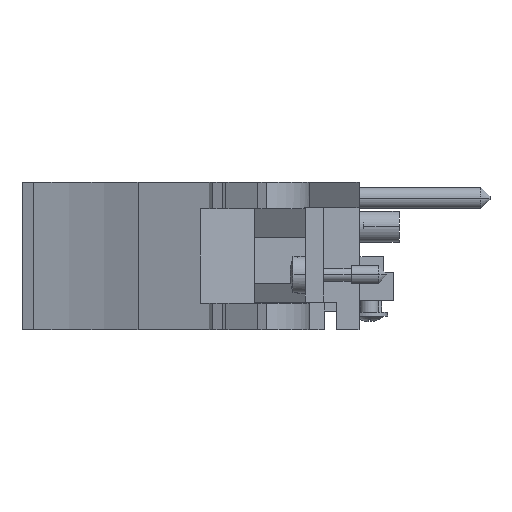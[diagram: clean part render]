
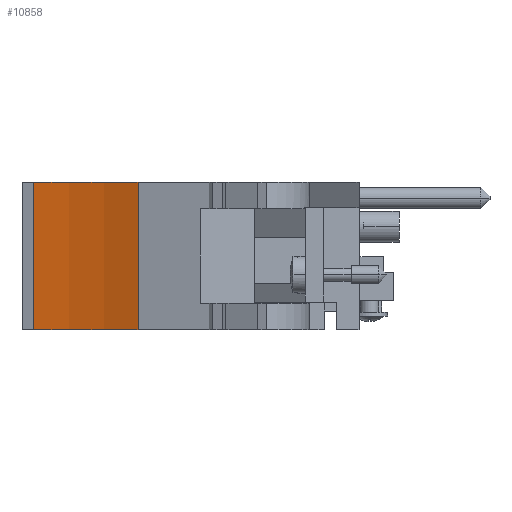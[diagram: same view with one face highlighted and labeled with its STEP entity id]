
A CAD part, front view. The second image highlights one B-rep face of the part: STEP entity #10858.
In plain terms, the highlighted cylindrical face has radius 51.46 mm (diameter 102.919 mm), a partial arc.
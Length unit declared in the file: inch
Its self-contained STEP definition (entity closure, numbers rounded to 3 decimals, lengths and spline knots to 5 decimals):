
#2140=CARTESIAN_POINT('',(-1.97633,-5.96253,0.695));
#2141=DIRECTION('',(0.,0.,1.));
#2142=DIRECTION('',(0.435,0.9,0.));
#2143=AXIS2_PLACEMENT_3D('',#2140,#2141,#2142);
#2485=CARTESIAN_POINT('',(-1.97633,-5.96253,-0.093));
#2486=DIRECTION('',(0.,0.,1.));
#2487=DIRECTION('',(0.435,0.9,0.));
#2488=AXIS2_PLACEMENT_3D('',#2485,#2486,#2487);
#2727=DIRECTION('',(0.,0.,1.));
#2728=VECTOR('',#2727,0.788);
#2729=CARTESIAN_POINT('',(-1.653,-3.96253,-0.093));
#2730=LINE('',#2729,#2728);
#2735=DIRECTION('',(0.,0.,1.));
#2736=VECTOR('',#2735,0.788);
#2737=CARTESIAN_POINT('',(-1.09503,-4.13829,-0.093));
#2738=LINE('',#2737,#2736);
#6079=CARTESIAN_POINT('',(-1.09503,-4.13829,-0.093));
#6080=CARTESIAN_POINT('',(-1.653,-3.96253,-0.093));
#6081=VERTEX_POINT('',#6079);
#6082=VERTEX_POINT('',#6080);
#6083=CARTESIAN_POINT('',(-1.09503,-4.13829,0.695));
#6084=CARTESIAN_POINT('',(-1.653,-3.96253,0.695));
#6085=VERTEX_POINT('',#6083);
#6086=VERTEX_POINT('',#6084);
#10846=CARTESIAN_POINT('',(-1.97633,-5.96253,0.695));
#10847=DIRECTION('',(0.,0.,1.));
#10848=DIRECTION('',(0.,1.,0.));
#10849=AXIS2_PLACEMENT_3D('',#10846,#10847,#10848);
#10850=CYLINDRICAL_SURFACE('',#10849,2.02597);
#10851=ORIENTED_EDGE('',*,*,#10515,.T.);
#10852=ORIENTED_EDGE('',*,*,#10838,.T.);
#10853=ORIENTED_EDGE('',*,*,#10064,.F.);
#10855=ORIENTED_EDGE('',*,*,#10854,.F.);
#10856=EDGE_LOOP('',(#10851,#10852,#10853,#10855));
#10857=FACE_OUTER_BOUND('',#10856,.F.);
#10858=ADVANCED_FACE('',(#10857),#10850,.F.);
#2144=CIRCLE('',#2143,2.02597);
#2489=CIRCLE('',#2488,2.02597);
#10064=EDGE_CURVE('',#6085,#6086,#2144,.T.);
#10515=EDGE_CURVE('',#6081,#6082,#2489,.T.);
#10838=EDGE_CURVE('',#6082,#6086,#2730,.T.);
#10854=EDGE_CURVE('',#6081,#6085,#2738,.T.);
